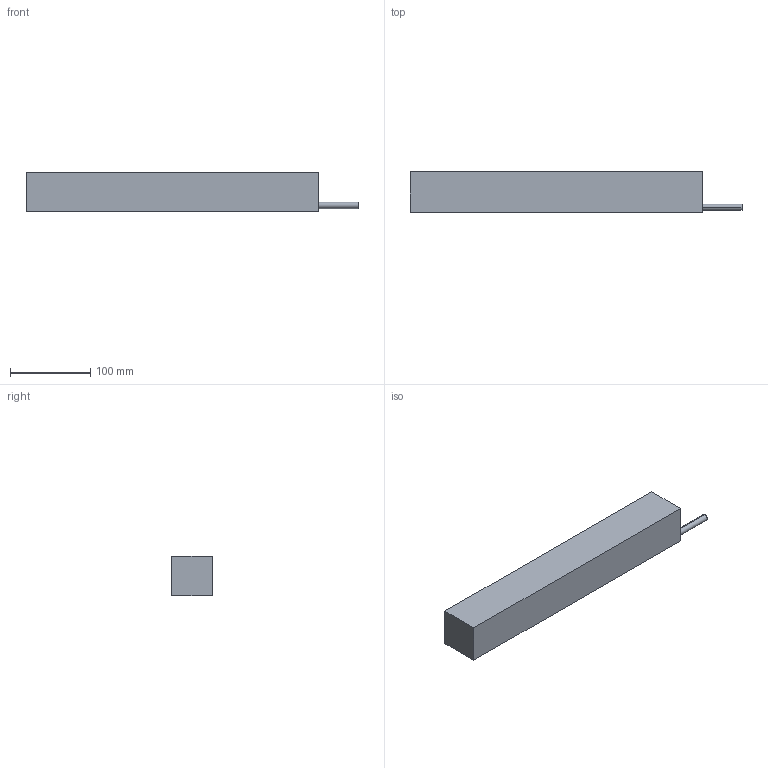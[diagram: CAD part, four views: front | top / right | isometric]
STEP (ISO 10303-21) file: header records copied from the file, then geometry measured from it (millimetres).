
FILE_DESCRIPTION (( 'STEP AP214' ), '1' );
FILE_NAME ('FLM-51-364.STEP', '2022-05-12T08:00:46', ( 'Microsoft' ), ( 'Microsoft' ), 'SwSTEP 2.0', 'SolidWorks 2016', '' );
FILE_SCHEMA (( 'AUTOMOTIVE_DESIGN' ));
Length unit declared in the file: millimetre
Products named in the file (1): FLM-51-364
Bounding box: 413.3 x 51 x 49.3 mm (x, y, z)
Volume: 915714.7 mm3; surface area: 81083.1 mm2
Topology: 1 solids, 1 shells, 105 faces, 258 edges, 132 vertices
Faces by surface type: cylinder 50, cone 48, plane 7
Entity records: 3294 total; most frequent: DIRECTION 522, CARTESIAN_POINT 448, ORIENTED_EDGE 420, EDGE_CURVE 210, AXIS2_PLACEMENT_3D 206, VERTEX_POINT 132, EDGE_LOOP 130, VECTOR 110
